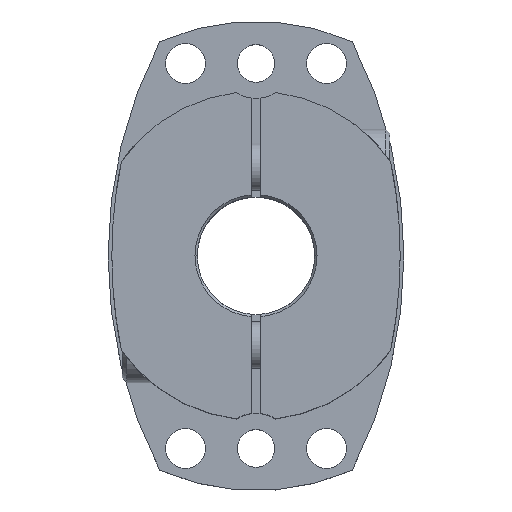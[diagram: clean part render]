
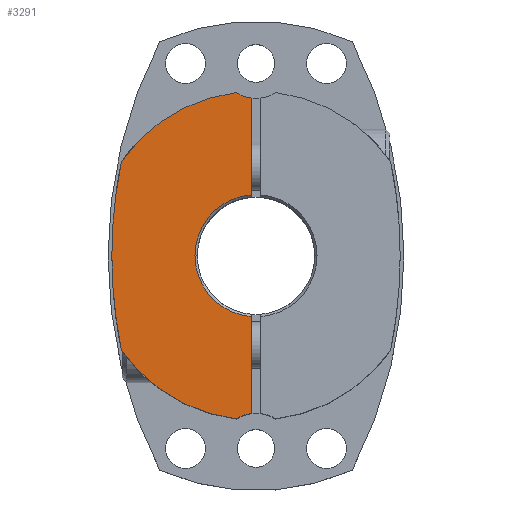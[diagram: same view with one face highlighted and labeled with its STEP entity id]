
A CAD part, top view. The second image highlights one B-rep face of the part: STEP entity #3291.
In plain terms, the highlighted planar face has unit normal (0, 0, 1).
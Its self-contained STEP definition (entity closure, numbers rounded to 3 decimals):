
#227=CARTESIAN_POINT('',(-13.0,0.,31.0));
#228=VERTEX_POINT('',#227);
#244=CARTESIAN_POINT('',(-1.0,12.961,31.0));
#245=VERTEX_POINT('',#244);
#259=CARTESIAN_POINT('',(0.0,0.0,31.0));
#260=DIRECTION('',(0.0,0.0,1.0));
#261=DIRECTION('',(-1.0,0.0,0.0));
#262=AXIS2_PLACEMENT_3D('',#259,#260,#261);
#263=CIRCLE('',#262,13.0);
#264=EDGE_CURVE('',#245,#228,#263,.T.);
#942=CARTESIAN_POINT('',(-30.7,0.,31.0));
#943=VERTEX_POINT('',#942);
#952=CARTESIAN_POINT('',(-28.638,20.121,31.0));
#953=VERTEX_POINT('',#952);
#954=CARTESIAN_POINT('',(68.5,0.,31.0));
#955=DIRECTION('',(0.0,0.0,-1.0));
#956=DIRECTION('',(1.0,0.0,0.0));
#957=AXIS2_PLACEMENT_3D('',#954,#955,#956);
#958=CIRCLE('',#957,99.2);
#959=EDGE_CURVE('',#943,#953,#958,.T.);
#2290=CARTESIAN_POINT('',(-28.638,-20.121,31.0));
#2291=VERTEX_POINT('',#2290);
#2298=CARTESIAN_POINT('',(68.5,0.,31.0));
#2299=DIRECTION('',(0.0,0.0,-1.0));
#2300=DIRECTION('',(1.0,0.0,0.0));
#2301=AXIS2_PLACEMENT_3D('',#2298,#2299,#2300);
#2302=CIRCLE('',#2301,99.2);
#2303=EDGE_CURVE('',#2291,#943,#2302,.T.);
#2593=CARTESIAN_POINT('',(-4.15,34.753,31.0));
#2594=VERTEX_POINT('',#2593);
#2595=CARTESIAN_POINT('',(0.,0.,31.0));
#2596=DIRECTION('',(0.0,0.0,-1.0));
#2597=DIRECTION('',(1.0,0.0,0.0));
#2598=AXIS2_PLACEMENT_3D('',#2595,#2596,#2597);
#2599=CIRCLE('',#2598,35.);
#2600=EDGE_CURVE('',#953,#2594,#2599,.T.);
#2936=CARTESIAN_POINT('',(-1.0,-12.961,31.0));
#2937=VERTEX_POINT('',#2936);
#2938=CARTESIAN_POINT('',(0.0,0.0,31.0));
#2939=DIRECTION('',(0.0,0.0,1.0));
#2940=DIRECTION('',(-1.0,0.0,0.0));
#2941=AXIS2_PLACEMENT_3D('',#2938,#2939,#2940);
#2942=CIRCLE('',#2941,13.0);
#2943=EDGE_CURVE('',#228,#2937,#2942,.T.);
#2968=CARTESIAN_POINT('',(-1.0,-33.567,31.0));
#2969=VERTEX_POINT('',#2968);
#2970=CARTESIAN_POINT('',(-1.0,-33.567,31.0));
#2971=DIRECTION('',(0.0,1.0,0.0));
#2972=VECTOR('',#2971,20.605);
#2973=LINE('',#2970,#2972);
#2974=EDGE_CURVE('',#2969,#2937,#2973,.T.);
#3049=CARTESIAN_POINT('',(-1.0,33.567,31.0));
#3050=VERTEX_POINT('',#3049);
#3057=CARTESIAN_POINT('',(-1.0,12.961,31.0));
#3058=DIRECTION('',(0.0,1.0,0.0));
#3059=VECTOR('',#3058,20.605);
#3060=LINE('',#3057,#3059);
#3061=EDGE_CURVE('',#245,#3050,#3060,.T.);
#3126=CARTESIAN_POINT('',(-4.15,-34.753,31.0));
#3127=VERTEX_POINT('',#3126);
#3128=CARTESIAN_POINT('',(0.,-41.,31.0));
#3129=DIRECTION('',(0.0,0.0,-1.0));
#3130=DIRECTION('',(1.0,0.0,0.0));
#3131=AXIS2_PLACEMENT_3D('',#3128,#3129,#3130);
#3132=CIRCLE('',#3131,7.5);
#3133=EDGE_CURVE('',#3127,#2969,#3132,.T.);
#3262=CARTESIAN_POINT('',(0.,0.,31.0));
#3263=DIRECTION('',(0.0,0.0,1.0));
#3264=DIRECTION('',(1.0,0.0,0.0));
#3265=AXIS2_PLACEMENT_3D('',#3262,#3263,#3264);
#3266=PLANE('',#3265);
#3267=ORIENTED_EDGE('',*,*,#264,.F.);
#3268=ORIENTED_EDGE('',*,*,#3061,.T.);
#3269=CARTESIAN_POINT('',(0.,41.,31.0));
#3270=DIRECTION('',(0.0,0.0,-1.0));
#3271=DIRECTION('',(1.0,0.0,0.0));
#3272=AXIS2_PLACEMENT_3D('',#3269,#3270,#3271);
#3273=CIRCLE('',#3272,7.5);
#3274=EDGE_CURVE('',#3050,#2594,#3273,.T.);
#3275=ORIENTED_EDGE('',*,*,#3274,.T.);
#3276=ORIENTED_EDGE('',*,*,#2600,.F.);
#3277=ORIENTED_EDGE('',*,*,#959,.F.);
#3278=ORIENTED_EDGE('',*,*,#2303,.F.);
#3279=CARTESIAN_POINT('',(0.,0.,31.0));
#3280=DIRECTION('',(0.0,0.0,-1.0));
#3281=DIRECTION('',(1.0,0.0,0.0));
#3282=AXIS2_PLACEMENT_3D('',#3279,#3280,#3281);
#3283=CIRCLE('',#3282,35.);
#3284=EDGE_CURVE('',#3127,#2291,#3283,.T.);
#3285=ORIENTED_EDGE('',*,*,#3284,.F.);
#3286=ORIENTED_EDGE('',*,*,#3133,.T.);
#3287=ORIENTED_EDGE('',*,*,#2974,.T.);
#3288=ORIENTED_EDGE('',*,*,#2943,.F.);
#3289=EDGE_LOOP('',(#3267,#3268,#3275,#3276,#3277,#3278,#3285,#3286,#3287,#3288));
#3290=FACE_OUTER_BOUND('',#3289,.T.);
#3291=ADVANCED_FACE('',(#3290),#3266,.T.);
